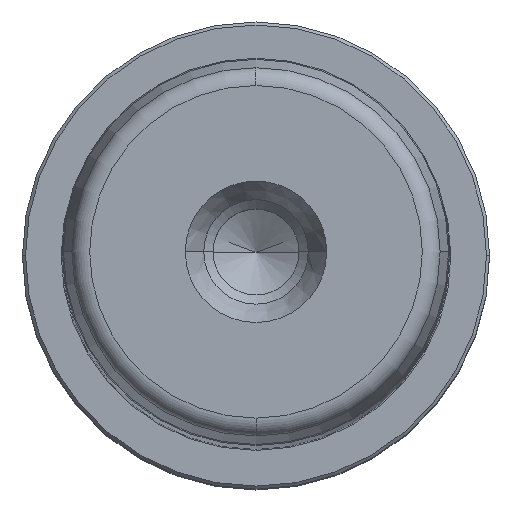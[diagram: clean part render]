
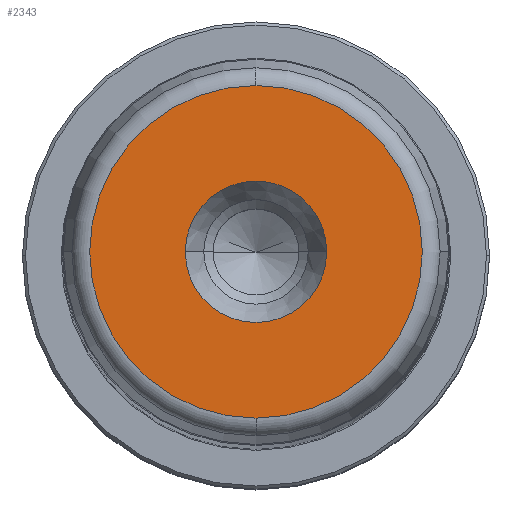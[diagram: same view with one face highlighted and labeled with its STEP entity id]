
A CAD part, top view. The second image highlights one B-rep face of the part: STEP entity #2343.
In plain terms, the highlighted planar face has unit normal (0, 0, 1).
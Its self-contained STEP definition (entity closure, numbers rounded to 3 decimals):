
#431=CARTESIAN_POINT('',(11.5,0.,355.0));
#432=VERTEX_POINT('',#431);
#439=CARTESIAN_POINT('',(-11.5,0.,355.0));
#440=VERTEX_POINT('',#439);
#441=CARTESIAN_POINT('',(0.0,0.,355.0));
#442=DIRECTION('',(0.0,0.0,1.0));
#443=DIRECTION('',(1.0,0.0,0.0));
#444=AXIS2_PLACEMENT_3D('',#441,#442,#443);
#445=CIRCLE('',#444,11.5);
#446=EDGE_CURVE('',#432,#440,#445,.T.);
#463=CARTESIAN_POINT('',(0.0,-27.054,355.0));
#464=VERTEX_POINT('',#463);
#474=CARTESIAN_POINT('',(0.,27.054,355.0));
#475=VERTEX_POINT('',#474);
#476=CARTESIAN_POINT('',(0.0,0.,355.0));
#477=DIRECTION('',(0.0,0.0,1.0));
#478=DIRECTION('',(1.0,0.0,0.0));
#479=AXIS2_PLACEMENT_3D('',#476,#477,#478);
#480=CIRCLE('',#479,27.054);
#481=EDGE_CURVE('',#475,#464,#480,.T.);
#2304=CARTESIAN_POINT('',(27.054,0.,355.0));
#2305=VERTEX_POINT('',#2304);
#2306=CARTESIAN_POINT('',(0.0,0.,355.0));
#2307=DIRECTION('',(0.0,0.0,1.0));
#2308=DIRECTION('',(1.0,0.0,0.0));
#2309=AXIS2_PLACEMENT_3D('',#2306,#2307,#2308);
#2310=CIRCLE('',#2309,27.054);
#2311=EDGE_CURVE('',#2305,#475,#2310,.T.);
#2313=CARTESIAN_POINT('',(0.0,0.,355.0));
#2314=DIRECTION('',(0.0,0.0,1.0));
#2315=DIRECTION('',(1.0,0.0,0.0));
#2316=AXIS2_PLACEMENT_3D('',#2313,#2314,#2315);
#2317=CIRCLE('',#2316,27.054);
#2318=EDGE_CURVE('',#464,#2305,#2317,.T.);
#2323=CARTESIAN_POINT('',(19.277,0.,355.0));
#2324=DIRECTION('',(0.0,0.0,1.0));
#2325=DIRECTION('',(0.0,-1.0,0.0));
#2326=AXIS2_PLACEMENT_3D('',#2323,#2324,#2325);
#2327=PLANE('',#2326);
#2328=ORIENTED_EDGE('',*,*,#2311,.T.);
#2329=ORIENTED_EDGE('',*,*,#481,.T.);
#2330=ORIENTED_EDGE('',*,*,#2318,.T.);
#2331=EDGE_LOOP('',(#2328,#2329,#2330));
#2332=FACE_OUTER_BOUND('',#2331,.T.);
#2333=ORIENTED_EDGE('',*,*,#446,.F.);
#2334=CARTESIAN_POINT('',(0.0,0.,355.0));
#2335=DIRECTION('',(0.0,0.0,1.0));
#2336=DIRECTION('',(1.0,0.0,0.0));
#2337=AXIS2_PLACEMENT_3D('',#2334,#2335,#2336);
#2338=CIRCLE('',#2337,11.5);
#2339=EDGE_CURVE('',#440,#432,#2338,.T.);
#2340=ORIENTED_EDGE('',*,*,#2339,.F.);
#2341=EDGE_LOOP('',(#2333,#2340));
#2342=FACE_BOUND('',#2341,.T.);
#2343=ADVANCED_FACE('',(#2332,#2342),#2327,.T.);
